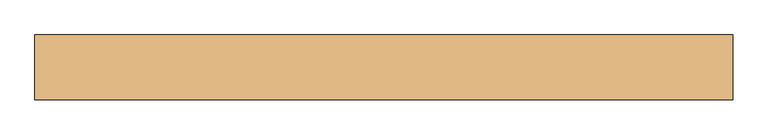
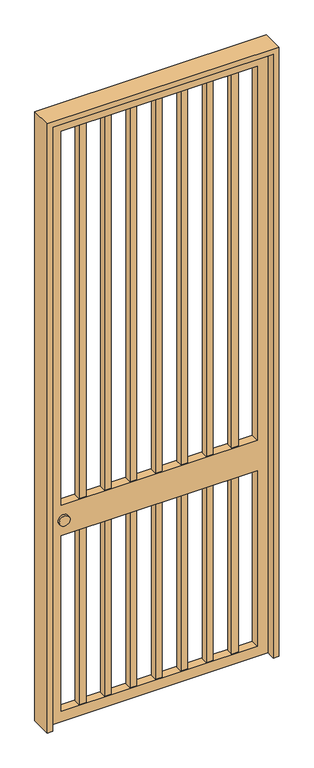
"""IFC4 building model written with IfcOpenShell, lengths in millimetres: door geometry, Portão_metalico : Portão_metalico 1,00 x 3,00m - Manutenção."""

from ifc_helpers import new_model, si_unit, frame, origin, place, context, project, spatial, polyline, circle_curve, outline, extrude, faceted_brep, source, transform, mapped, element, save
from ifc_brep_helpers import plane_surface, cylinder_surface, advanced_brep


def door_f9ab2199(model_context):
    return source(origin(), model_context, "Body", "SolidModel", [
        extrude(outline(polyline([(-221.3333333, 31.0), (-221.3333333, -1.0), (-253.3333333, -1.0), (-253.3333333, 31.0), (-221.3333333, 31.0)])), frame((0.0, 0.0, 60.0), z_axis=(0.0, 0.0, 1.0), x_axis=(1.0, 0.0, 0.0)), (0.0, 0.0, 1.0), 2857.5),
        extrude(outline(polyline([(-102.6666667, 31.0), (-102.6666667, -1.0), (-134.6666667, -1.0), (-134.6666667, 31.0), (-102.6666667, 31.0)])), frame((0.0, 0.0, 60.0), z_axis=(0.0, 0.0, 1.0), x_axis=(1.0, 0.0, 0.0)), (0.0, 0.0, 1.0), 2857.5),
        extrude(outline(polyline([(-340.0, 31.0), (-340.0, -1.0), (-372.0, -1.0), (-372.0, 31.0), (-340.0, 31.0)])), frame((0.0, 0.0, 60.0), z_axis=(0.0, 0.0, 1.0), x_axis=(1.0, 0.0, 0.0)), (0.0, 0.0, 1.0), 2857.5),
        extrude(outline(polyline([(253.3333333, 31.0), (253.3333333, -1.0), (221.3333333, -1.0), (221.3333333, 31.0), (253.3333333, 31.0)])), frame((0.0, 0.0, 60.0), z_axis=(0.0, 0.0, 1.0), x_axis=(1.0, 0.0, 0.0)), (0.0, 0.0, 1.0), 2857.5),
        extrude(outline(polyline([(134.6666667, 31.0), (134.6666667, -1.0), (102.6666667, -1.0), (102.6666667, 31.0), (134.6666667, 31.0)])), frame((0.0, 0.0, 60.0), z_axis=(0.0, 0.0, 1.0), x_axis=(1.0, 0.0, 0.0)), (0.0, 0.0, 1.0), 2857.5),
        extrude(outline(polyline([(372.0, 31.0), (372.0, -1.0), (340.0, -1.0), (340.0, 31.0), (372.0, 31.0)])), frame((0.0, 0.0, 60.0), z_axis=(0.0, 0.0, 1.0), x_axis=(1.0, 0.0, 0.0)), (0.0, 0.0, 1.0), 2857.5),
        extrude(outline(polyline([(16.0, 31.0), (16.0, -1.0), (-16.0, -1.0), (-16.0, 31.0), (16.0, 31.0)])), frame((0.0, 0.0, 60.0), z_axis=(0.0, 0.0, 1.0), x_axis=(1.0, 0.0, 0.0)), (0.0, 0.0, 1.0), 2857.5),
        faceted_brep([(515.0, -35.0, 0.0), (515.0, 35.0, 0.0), (500.0, 35.0, 0.0), (500.0, 65.0, 0.0), (540.0, 65.0, 0.0), (540.0, -35.0, 0.0), (515.0, -35.0, 2975.0), (515.0, 35.0, 2975.0), (-515.0, 35.0, 2975.0), (-515.0, 35.0, 0.0), (-500.0, 35.0, 0.0), (-500.0, 35.0, 2960.0), (500.0, 35.0, 2960.0), (500.0, 65.0, 2960.0), (-500.0, 65.0, 2960.0), (-500.0, 65.0, 0.0), (-540.0, 65.0, 0.0), (-540.0, 65.0, 3000.0), (540.0, 65.0, 3000.0), (540.0, -35.0, 3000.0), (-540.0, -35.0, 3000.0), (-540.0, -35.0, 0.0), (-515.0, -35.0, 0.0), (-515.0, -35.0, 2975.0)], [[[0, 1, 2, 3, 4, 5]], [[1, 0, 6, 7]], [[2, 1, 7, 8, 9, 10, 11, 12]], [[3, 2, 12, 13]], [[4, 3, 13, 14, 15, 16, 17, 18]], [[5, 4, 18, 19]], [[0, 5, 19, 20, 21, 22, 23, 6]], [[8, 23, 22, 9]], [[22, 21, 16, 15, 10, 9]], [[14, 11, 10, 15]], [[20, 17, 16, 21]], [[7, 6, 23, 8]], [[13, 12, 11, 14]], [[19, 18, 17, 20]]]),
        advanced_brep(
        [(507.0, -5.0, 2967.5), (-507.0, -5.0, 2967.5), (-507.0, -5.0, 10.0), (507.0, -5.0, 10.0), (457.0, -5.0, 60.0), (-457.0, -5.0, 60.0), (-457.0, -5.0, 925.0), (457.0, -5.0, 925.0), (-457.0, -5.0, 2917.5), (457.0, -5.0, 2917.5), (457.0, -5.0, 1075.0), (-457.0, -5.0, 1075.0), (-472.0, -5.0, 1000.0), (-422.0, -5.0, 1000.0), (507.0, 35.0, 2967.5), (507.0, 35.0, 10.0), (-507.0, 35.0, 10.0), (-507.0, 35.0, 2967.5), (457.0, 35.0, 2917.5), (-457.0, 35.0, 2917.5), (-457.0, 35.0, 1075.0), (457.0, 35.0, 1075.0), (-457.0, 35.0, 60.0), (457.0, 35.0, 60.0), (457.0, 35.0, 925.0), (-457.0, 35.0, 925.0), (-422.0, 35.0, 1000.0), (-472.0, 35.0, 1000.0), (-422.0, 45.0, 1000.0), (-472.0, 45.0, 1000.0), (-422.0, -15.0, 1000.0), (-472.0, -15.0, 1000.0)],
        [
            (0, 1),
            (1, 2),
            (2, 3),
            (3, 0),
            (4, 5),
            (5, 6),
            (6, 7),
            (7, 4),
            (8, 9),
            (9, 10),
            (10, 11),
            (11, 8),
            (12, 13, circle_curve(frame((-447.0, -5.0, 1000.0), z_axis=(0.0, 1.0, 0.0), x_axis=(-1.0, 0.0, 0.0)), 25.0)),
            (13, 12, circle_curve(frame((-447.0, -5.0, 1000.0), z_axis=(0.0, 1.0, 0.0), x_axis=(-1.0, 0.0, 0.0)), 25.0)),
            (14, 15),
            (15, 16),
            (16, 17),
            (17, 14),
            (18, 19),
            (19, 20),
            (20, 21),
            (21, 18),
            (22, 23),
            (23, 24),
            (24, 25),
            (25, 22),
            (26, 27, circle_curve(frame((-447.0, 35.0, 1000.0), z_axis=(0.0, -1.0, 0.0), x_axis=(-1.0, 0.0, 0.0)), 25.0)),
            (27, 26, circle_curve(frame((-447.0, 35.0, 1000.0), z_axis=(0.0, -1.0, 0.0), x_axis=(-1.0, 0.0, 0.0)), 25.0)),
            (0, 14),
            (17, 1),
            (16, 2),
            (15, 3),
            (23, 4),
            (7, 24),
            (9, 18),
            (21, 10),
            (8, 19),
            (11, 20),
            (5, 22),
            (25, 6),
            (28, 29, circle_curve(frame((-447.0, 45.0, 1000.0), z_axis=(0.0, 1.0, 0.0), x_axis=(-1.0, 0.0, 0.0)), 25.0)),
            (29, 28, circle_curve(frame((-447.0, 45.0, 1000.0), z_axis=(0.0, 1.0, 0.0), x_axis=(-1.0, 0.0, 0.0)), 25.0)),
            (30, 31, circle_curve(frame((-447.0, -15.0, 1000.0), z_axis=(0.0, -1.0, 0.0), x_axis=(-1.0, 0.0, 0.0)), 25.0)),
            (31, 30, circle_curve(frame((-447.0, -15.0, 1000.0), z_axis=(0.0, -1.0, 0.0), x_axis=(-1.0, 0.0, 0.0)), 25.0)),
            (29, 27),
            (26, 28),
            (30, 13),
            (12, 31),
        ],
        [
            plane_surface(frame((507.0, -5.0, 2967.5), z_axis=(0.0, -1.0, 0.0), x_axis=(0.0, 0.0, 1.0))),
            plane_surface(frame((507.0, 35.0, 2967.5), z_axis=(0.0, 1.0, 0.0), x_axis=(0.0, 0.0, -1.0))),
            plane_surface(frame((-507.0, 35.0, 2967.5), z_axis=(0.0, 0.0, 1.0), x_axis=(0.0, -1.0, 0.0))),
            plane_surface(frame((-507.0, 35.0, 10.0), z_axis=(-1.0, 0.0, 0.0), x_axis=(0.0, -1.0, 0.0))),
            plane_surface(frame((507.0, 35.0, 10.0), z_axis=(0.0, 0.0, -1.0), x_axis=(0.0, -1.0, 0.0))),
            plane_surface(frame((507.0, 35.0, 2967.5), z_axis=(1.0, 0.0, 0.0), x_axis=(0.0, -1.0, 0.0))),
            plane_surface(frame((457.0, 35.0, 60.0), z_axis=(-1.0, 0.0, 0.0), x_axis=(0.0, -1.0, 0.0))),
            plane_surface(frame((457.0, 35.0, 2917.5), z_axis=(0.0, 0.0, -1.0), x_axis=(0.0, -1.0, 0.0))),
            plane_surface(frame((-457.0, 35.0, 2917.5), z_axis=(1.0, 0.0, 0.0), x_axis=(0.0, -1.0, 0.0))),
            plane_surface(frame((-457.0, 35.0, 60.0), z_axis=(0.0, 0.0, 1.0), x_axis=(0.0, -1.0, 0.0))),
            plane_surface(frame((-457.0, 35.0, 1075.0), z_axis=(0.0, 0.0, 1.0), x_axis=(0.0, -1.0, 0.0))),
            plane_surface(frame((457.0, 35.0, 925.0), z_axis=(0.0, 0.0, -1.0), x_axis=(0.0, -1.0, 0.0))),
            plane_surface(frame((-472.0, 45.0, 1000.0), z_axis=(0.0, 1.0, 0.0), x_axis=(0.0, 0.0, 1.0))),
            plane_surface(frame((-472.0, -15.0, 1000.0), z_axis=(0.0, -1.0, 0.0), x_axis=(0.0, 0.0, -1.0))),
            cylinder_surface(frame((-447.0, -15.0, 1000.0), z_axis=(0.0, 1.0, 0.0), x_axis=(-1.0, 0.0, 0.0)), 25.0),
        ],
        [
            (0, [[1, 2, 3, 4], [5, 6, 7, 8], [9, 10, 11, 12], [13, 14]]),
            (1, [[15, 16, 17, 18], [19, 20, 21, 22], [23, 24, 25, 26], [27, 28]]),
            (2, [[-1, 29, -18, 30]]),
            (3, [[-2, -30, -17, 31]]),
            (4, [[-3, -31, -16, 32]]),
            (5, [[-4, -32, -15, -29]]),
            (6, [[33, -8, 34, -24]]),
            (6, [[35, -22, 36, -10]]),
            (7, [[-9, 37, -19, -35]]),
            (8, [[-37, -12, 38, -20]]),
            (8, [[39, -26, 40, -6]]),
            (9, [[-5, -33, -23, -39]]),
            (10, [[-11, -36, -21, -38]]),
            (11, [[-7, -40, -25, -34]]),
            (12, [[41, 42]]),
            (13, [[43, 44]]),
            (14, [[-42, 45, -27, 46]]),
            (14, [[-43, 47, -13, 48]]),
            (14, [[-41, -46, -28, -45]]),
            (14, [[-44, -48, -14, -47]]),
        ],
    ),
    ])


if __name__ == "__main__":
    model = new_model("IFC4")
    model_context = context("Model", 3, world=origin())
    ifc_project = project(units=[si_unit("LENGTHUNIT", "METRE", prefix="MILLI")], contexts=[model_context])
    site = spatial("IfcSite", under=ifc_project)
    building = spatial("IfcBuilding", under=site)
    placement = place(None, origin())
    door_shape = door_f9ab2199(model_context)
    element("IfcDoor", 1, ObjectType="Portão_metalico : Portão_metalico 1,00 x 3,00m - Manutenção", at=placement, inside=building, context=model_context, shape_type="MappedRepresentation", body=[
        mapped(door_shape, transform((0.0, 0.0, 0.0), x_axis=(1.0, 0.0, 0.0), y_axis=(0.0, 1.0, 0.0), z_axis=(0.0, 0.0, 1.0))),
    ])
    save(model, "model.ifc")
